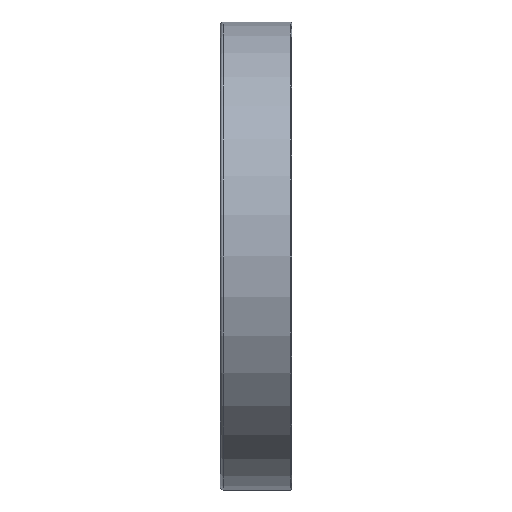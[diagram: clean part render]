
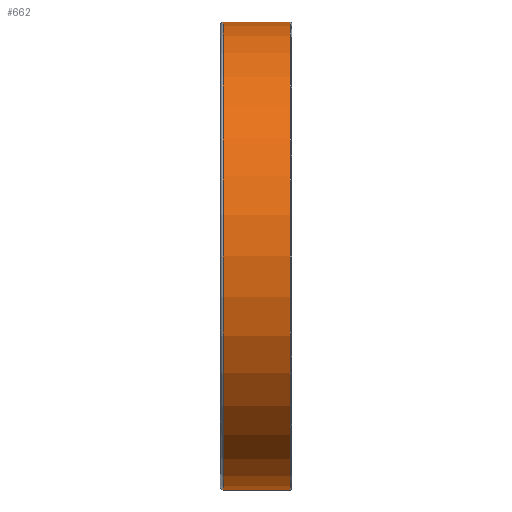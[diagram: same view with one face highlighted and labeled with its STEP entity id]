
A CAD part, front view. The second image highlights one B-rep face of the part: STEP entity #662.
In plain terms, the highlighted cylindrical face has radius 52.5 mm (diameter 105 mm), a full revolution.
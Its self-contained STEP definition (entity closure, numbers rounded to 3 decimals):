
#188=CYLINDRICAL_SURFACE('',#1058,52.5);
#316=EDGE_LOOP('',(#456));
#317=EDGE_LOOP('',(#457));
#456=ORIENTED_EDGE('',*,*,#534,.F.);
#457=ORIENTED_EDGE('',*,*,#532,.T.);
#532=EDGE_CURVE('',#971,#971,#552,.T.);
#534=EDGE_CURVE('',#973,#973,#554,.T.);
#552=CIRCLE('',#1054,52.5);
#554=CIRCLE('',#1057,52.5);
#662=ADVANCED_FACE('',(#845,#846),#188,.T.);
#845=FACE_BOUND('',#316,.T.);
#846=FACE_BOUND('',#317,.T.);
#971=VERTEX_POINT('',#4298);
#973=VERTEX_POINT('',#4303);
#1054=AXIS2_PLACEMENT_3D('',#4297,#1203,#1204);
#1057=AXIS2_PLACEMENT_3D('',#4302,#1209,#1210);
#1058=AXIS2_PLACEMENT_3D('',#4304,#1211,#1212);
#1203=DIRECTION('',(1.,0.,0.));
#1204=DIRECTION('',(0.,0.,-1.));
#1209=DIRECTION('',(1.,0.,0.));
#1210=DIRECTION('',(0.,0.,-1.));
#1211=DIRECTION('',(1.,0.,0.));
#1212=DIRECTION('',(0.,0.,-1.));
#4297=CARTESIAN_POINT('',(-7.4,0.,0.));
#4298=CARTESIAN_POINT('',(-7.4,0.,-52.5));
#4302=CARTESIAN_POINT('',(7.7,0.,0.));
#4303=CARTESIAN_POINT('',(7.7,0.,-52.5));
#4304=CARTESIAN_POINT('',(-7.4,0.,0.));
